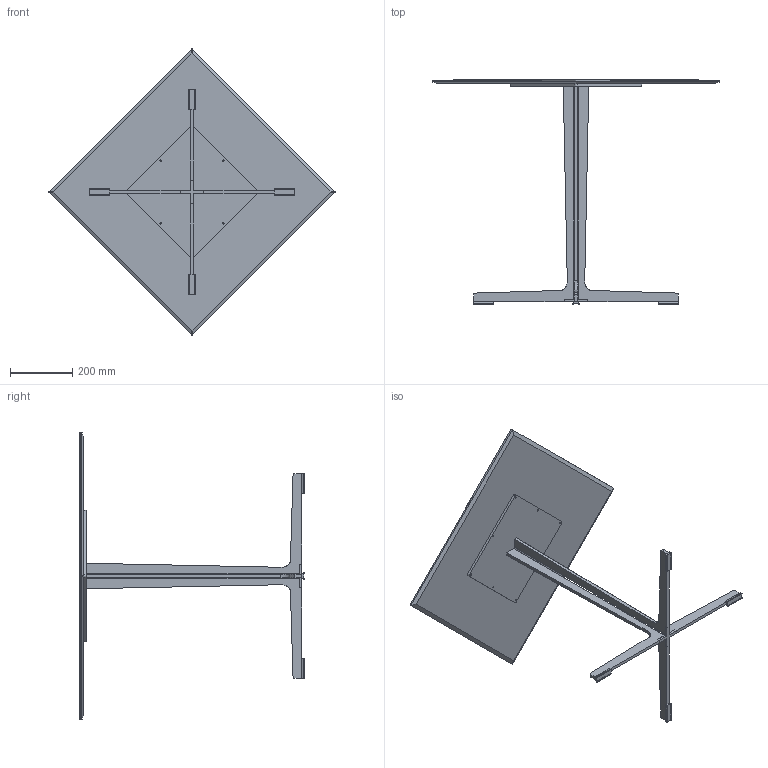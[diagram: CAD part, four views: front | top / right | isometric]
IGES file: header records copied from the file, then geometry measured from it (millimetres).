
Start section: SolidWorks IGES file using analytic representation for surfaces
Global section: file name: W:\design\CKR\spilt\IGS\65X65.IGS; native system: SolidWorks 2010; preprocessor: SolidWorks 2010; author: PC20; date: 150212.183853; units: millimetre
Bounding box: 916.75 x 717 x 916.75 mm (x, y, z)
Surface area: 1379191.6 mm2 (no closed solid volume)
Topology: 0 solids, 0 shells, 271 faces, 5140 edges, 6538 vertices
Faces by surface type: bspline 174, revolution 97
